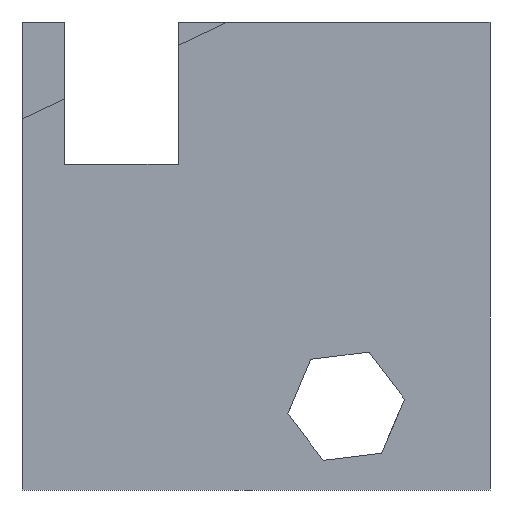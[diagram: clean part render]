
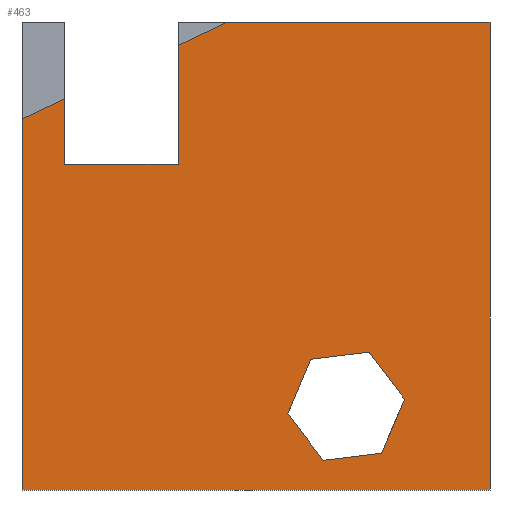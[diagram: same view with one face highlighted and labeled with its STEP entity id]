
A CAD part, front view. The second image highlights one B-rep face of the part: STEP entity #463.
In plain terms, the highlighted planar face has unit normal (0, -1, 0).
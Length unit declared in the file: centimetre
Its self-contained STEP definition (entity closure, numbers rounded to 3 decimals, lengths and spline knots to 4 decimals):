
#3 = CARTESIAN_POINT ( 'NONE',  ( 1000., 0., 1000. ) ) ;
#6 = DIRECTION ( 'NONE',  ( 1., 0., 0. ) ) ;
#19 = CARTESIAN_POINT ( 'NONE',  ( 333.7559, 0., 695.5358 ) ) ;
#30 = ORIENTED_EDGE ( 'NONE', *, *, #99, .F. ) ;
#40 = VECTOR ( 'NONE', #6, 100. ) ;
#45 = ORIENTED_EDGE ( 'NONE', *, *, #705, .F. ) ;
#46 = EDGE_CURVE ( 'NONE', #374, #787, #608, .T. ) ;
#50 = VERTEX_POINT ( 'NONE', #212 ) ;
#53 = DIRECTION ( 'NONE',  ( -0.602, 0., 0.799 ) ) ;
#54 = DIRECTION ( 'NONE',  ( 1., 0., 0. ) ) ;
#67 = CARTESIAN_POINT ( 'NONE',  ( 768.2555, 0., 78.6222 ) ) ;
#74 = LINE ( 'NONE', #723, #806 ) ;
#80 = CARTESIAN_POINT ( 'NONE',  ( 0., 0., 792.9776 ) ) ;
#84 = CARTESIAN_POINT ( 'NONE',  ( 1000., 0., 0. ) ) ;
#93 = VECTOR ( 'NONE', #417, 100. ) ;
#97 = VERTEX_POINT ( 'NONE', #3 ) ;
#99 = EDGE_CURVE ( 'NONE', #567, #441, #268, .T. ) ;
#101 = FACE_OUTER_BOUND ( 'NONE', #777, .T. ) ;
#103 = VECTOR ( 'NONE', #562, 100. ) ;
#115 = CARTESIAN_POINT ( 'NONE',  ( 90.7257, 0., 695.5358 ) ) ;
#117 = ORIENTED_EDGE ( 'NONE', *, *, #297, .F. ) ;
#122 = CARTESIAN_POINT ( 'NONE',  ( 617.0389, 0., 279.291 ) ) ;
#128 = ORIENTED_EDGE ( 'NONE', *, *, #556, .F. ) ;
#140 = CARTESIAN_POINT ( 'NONE',  ( 90.7257, 0., 695.5358 ) ) ;
#150 = VECTOR ( 'NONE', #342, 100. ) ;
#169 = LINE ( 'NONE', #172, #276 ) ;
#171 = DIRECTION ( 'NONE',  ( 0., 0., 1. ) ) ;
#172 = CARTESIAN_POINT ( 'NONE',  ( 643.5592, 0., 63.3106 ) ) ;
#173 = ORIENTED_EDGE ( 'NONE', *, *, #680, .T. ) ;
#175 = DIRECTION ( 'NONE',  ( 0., 0., -1. ) ) ;
#187 = CARTESIAN_POINT ( 'NONE',  ( 0., 0., 0. ) ) ;
#192 = CARTESIAN_POINT ( 'NONE',  ( 0., 0., 792.9776 ) ) ;
#197 = EDGE_CURVE ( 'NONE', #715, #779, #74, .T. ) ;
#212 = CARTESIAN_POINT ( 'NONE',  ( 90.7257, 0., 835.6905 ) ) ;
#234 = DIRECTION ( 'NONE',  ( 0.391, 0., 0.921 ) ) ;
#237 = CARTESIAN_POINT ( 'NONE',  ( 0., 0., 1000. ) ) ;
#238 = LINE ( 'NONE', #122, #400 ) ;
#248 = CARTESIAN_POINT ( 'NONE',  ( 90.7257, 0., 695.5358 ) ) ;
#256 = CARTESIAN_POINT ( 'NONE',  ( 0., 0., 0. ) ) ;
#258 = ORIENTED_EDGE ( 'NONE', *, *, #590, .T. ) ;
#262 = CARTESIAN_POINT ( 'NONE',  ( 333.7559, 0., 695.5358 ) ) ;
#268 = LINE ( 'NONE', #140, #40 ) ;
#276 = VECTOR ( 'NONE', #53, 100. ) ;
#297 = EDGE_CURVE ( 'NONE', #659, #574, #672, .T. ) ;
#299 = CARTESIAN_POINT ( 'NONE',  ( 1000., 0., 1000. ) ) ;
#304 = DIRECTION ( 'NONE',  ( 0.993, 0., 0.122 ) ) ;
#309 = DIRECTION ( 'NONE',  ( 0., 0., 1. ) ) ;
#313 = CARTESIAN_POINT ( 'NONE',  ( 0., 0., 792.9776 ) ) ;
#325 = VERTEX_POINT ( 'NONE', #84 ) ;
#331 = ORIENTED_EDGE ( 'NONE', *, *, #735, .F. ) ;
#342 = DIRECTION ( 'NONE',  ( 0.905, 0., 0.426 ) ) ;
#371 = PLANE ( 'NONE',  #553 ) ;
#372 = CARTESIAN_POINT ( 'NONE',  ( 817.3435, 0., 194.2681 ) ) ;
#374 = VERTEX_POINT ( 'NONE', #547 ) ;
#377 = CARTESIAN_POINT ( 'NONE',  ( 617.0389, 0., 279.291 ) ) ;
#381 = DIRECTION ( 'NONE',  ( 0., 0., -1. ) ) ;
#388 = LINE ( 'NONE', #372, #103 ) ;
#400 = VECTOR ( 'NONE', #304, 100. ) ;
#409 = EDGE_CURVE ( 'NONE', #667, #459, #542, .T. ) ;
#417 = DIRECTION ( 'NONE',  ( -0.993, 0., -0.122 ) ) ;
#431 = CARTESIAN_POINT ( 'NONE',  ( 439.7325, 0., 1000. ) ) ;
#435 = CARTESIAN_POINT ( 'NONE',  ( 567.9509, 0., 163.645 ) ) ;
#436 = VERTEX_POINT ( 'NONE', #756 ) ;
#441 = VERTEX_POINT ( 'NONE', #19 ) ;
#459 = VERTEX_POINT ( 'NONE', #539 ) ;
#463 = ADVANCED_FACE ( 'NONE', ( #813, #101 ), #371, .F. ) ;
#482 = EDGE_CURVE ( 'NONE', #97, #325, #564, .T. ) ;
#483 = ORIENTED_EDGE ( 'NONE', *, *, #577, .T. ) ;
#496 = DIRECTION ( 'NONE',  ( 1., 0., 0. ) ) ;
#498 = DIRECTION ( 'NONE',  ( 0., 1., 0. ) ) ;
#502 = VECTOR ( 'NONE', #54, 100. ) ;
#506 = LINE ( 'NONE', #262, #746 ) ;
#525 = EDGE_LOOP ( 'NONE', ( #773, #646, #797, #258, #699, #483 ) ) ;
#535 = DIRECTION ( 'NONE',  ( 0.602, 0., -0.799 ) ) ;
#539 = CARTESIAN_POINT ( 'NONE',  ( 643.5592, 0., 63.3106 ) ) ;
#542 = LINE ( 'NONE', #751, #93 ) ;
#547 = CARTESIAN_POINT ( 'NONE',  ( 741.7352, 0., 294.6025 ) ) ;
#550 = EDGE_CURVE ( 'NONE', #436, #623, #716, .T. ) ;
#553 = AXIS2_PLACEMENT_3D ( 'NONE', #237, #498, #171 ) ;
#556 = EDGE_CURVE ( 'NONE', #574, #97, #836, .T. ) ;
#557 = ORIENTED_EDGE ( 'NONE', *, *, #197, .T. ) ;
#562 = DIRECTION ( 'NONE',  ( -0.391, 0., -0.921 ) ) ;
#564 = LINE ( 'NONE', #299, #663 ) ;
#567 = VERTEX_POINT ( 'NONE', #248 ) ;
#574 = VERTEX_POINT ( 'NONE', #431 ) ;
#577 = EDGE_CURVE ( 'NONE', #623, #374, #238, .T. ) ;
#581 = LINE ( 'NONE', #115, #801 ) ;
#588 = ORIENTED_EDGE ( 'NONE', *, *, #652, .F. ) ;
#590 = EDGE_CURVE ( 'NONE', #459, #436, #169, .T. ) ;
#601 = EDGE_CURVE ( 'NONE', #787, #667, #388, .T. ) ;
#608 = LINE ( 'NONE', #750, #748 ) ;
#623 = VERTEX_POINT ( 'NONE', #377 ) ;
#634 = DIRECTION ( 'NONE',  ( 0.905, 0., 0.426 ) ) ;
#646 = ORIENTED_EDGE ( 'NONE', *, *, #601, .T. ) ;
#652 = EDGE_CURVE ( 'NONE', #50, #567, #581, .T. ) ;
#657 = LINE ( 'NONE', #187, #502 ) ;
#659 = VERTEX_POINT ( 'NONE', #772 ) ;
#663 = VECTOR ( 'NONE', #175, 100. ) ;
#667 = VERTEX_POINT ( 'NONE', #67 ) ;
#672 = LINE ( 'NONE', #80, #150 ) ;
#680 = EDGE_CURVE ( 'NONE', #779, #325, #657, .T. ) ;
#690 = VECTOR ( 'NONE', #496, 100. ) ;
#699 = ORIENTED_EDGE ( 'NONE', *, *, #550, .T. ) ;
#703 = LINE ( 'NONE', #313, #719 ) ;
#705 = EDGE_CURVE ( 'NONE', #715, #50, #703, .T. ) ;
#708 = CARTESIAN_POINT ( 'NONE',  ( 817.3435, 0., 194.2681 ) ) ;
#715 = VERTEX_POINT ( 'NONE', #192 ) ;
#716 = LINE ( 'NONE', #435, #757 ) ;
#719 = VECTOR ( 'NONE', #634, 100. ) ;
#723 = CARTESIAN_POINT ( 'NONE',  ( 0., 0., 1000. ) ) ;
#735 = EDGE_CURVE ( 'NONE', #441, #659, #506, .T. ) ;
#746 = VECTOR ( 'NONE', #309, 100. ) ;
#748 = VECTOR ( 'NONE', #535, 100. ) ;
#750 = CARTESIAN_POINT ( 'NONE',  ( 741.7352, 0., 294.6025 ) ) ;
#751 = CARTESIAN_POINT ( 'NONE',  ( 768.2555, 0., 78.6222 ) ) ;
#756 = CARTESIAN_POINT ( 'NONE',  ( 567.9509, 0., 163.645 ) ) ;
#757 = VECTOR ( 'NONE', #234, 100. ) ;
#771 = CARTESIAN_POINT ( 'NONE',  ( 0., 0., 1000. ) ) ;
#772 = CARTESIAN_POINT ( 'NONE',  ( 333.7559, 0., 950.1071 ) ) ;
#773 = ORIENTED_EDGE ( 'NONE', *, *, #46, .T. ) ;
#777 = EDGE_LOOP ( 'NONE', ( #30, #588, #45, #557, #173, #783, #128, #117, #331 ) ) ;
#779 = VERTEX_POINT ( 'NONE', #256 ) ;
#783 = ORIENTED_EDGE ( 'NONE', *, *, #482, .F. ) ;
#785 = DIRECTION ( 'NONE',  ( 0., 0., -1. ) ) ;
#787 = VERTEX_POINT ( 'NONE', #708 ) ;
#797 = ORIENTED_EDGE ( 'NONE', *, *, #409, .T. ) ;
#801 = VECTOR ( 'NONE', #381, 100. ) ;
#806 = VECTOR ( 'NONE', #785, 100. ) ;
#813 = FACE_BOUND ( 'NONE', #525, .T. ) ;
#836 = LINE ( 'NONE', #771, #690 ) ;
